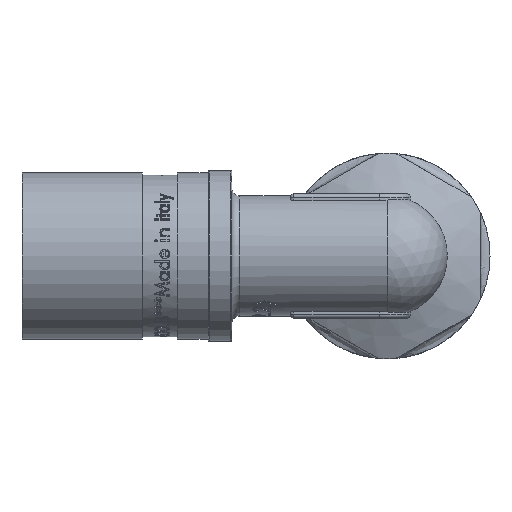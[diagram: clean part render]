
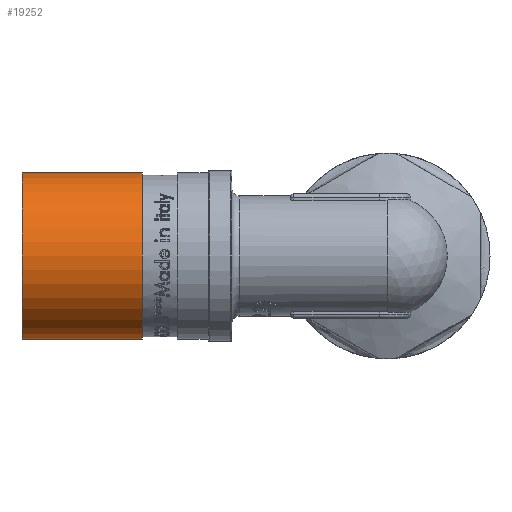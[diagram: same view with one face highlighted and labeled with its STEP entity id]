
A CAD part, front view. The second image highlights one B-rep face of the part: STEP entity #19252.
In plain terms, the highlighted cylindrical face has radius 10.7 mm (diameter 21.4 mm), a full revolution.
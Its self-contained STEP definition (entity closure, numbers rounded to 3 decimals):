
#1185=CIRCLE('',#20217,10.7);
#1186=CIRCLE('',#20218,10.7);
#1189=CIRCLE('',#20222,10.7);
#1190=CIRCLE('',#20223,10.7);
#2170=FACE_OUTER_BOUND('',#3300,.T.);
#3300=EDGE_LOOP('',(#16006,#16007,#16008,#16009,#16010,#16011));
#5498=LINE('',#38677,#6984);
#6984=VECTOR('',#22591,10.7);
#8853=VERTEX_POINT('',#38664);
#8854=VERTEX_POINT('',#38665);
#8857=VERTEX_POINT('',#38673);
#8858=VERTEX_POINT('',#38674);
#11383=EDGE_CURVE('',#8853,#8854,#1185,.T.);
#11384=EDGE_CURVE('',#8854,#8853,#1186,.T.);
#11387=EDGE_CURVE('',#8857,#8858,#1189,.T.);
#11388=EDGE_CURVE('',#8858,#8857,#1190,.T.);
#11389=EDGE_CURVE('',#8858,#8854,#5498,.T.);
#16006=ORIENTED_EDGE('',*,*,#11387,.F.);
#16007=ORIENTED_EDGE('',*,*,#11388,.F.);
#16008=ORIENTED_EDGE('',*,*,#11389,.T.);
#16009=ORIENTED_EDGE('',*,*,#11384,.T.);
#16010=ORIENTED_EDGE('',*,*,#11383,.T.);
#16011=ORIENTED_EDGE('',*,*,#11389,.F.);
#18572=CYLINDRICAL_SURFACE('',#20221,10.7);
#19252=ADVANCED_FACE('',(#2170),#18572,.T.);
#20217=AXIS2_PLACEMENT_3D('',#38666,#22577,#22578);
#20218=AXIS2_PLACEMENT_3D('',#38667,#22579,#22580);
#20221=AXIS2_PLACEMENT_3D('',#38672,#22585,#22586);
#20222=AXIS2_PLACEMENT_3D('',#38675,#22587,#22588);
#20223=AXIS2_PLACEMENT_3D('',#38676,#22589,#22590);
#22577=DIRECTION('center_axis',(1.,0.,0.));
#22578=DIRECTION('ref_axis',(0.,0.,-1.));
#22579=DIRECTION('center_axis',(1.,0.,0.));
#22580=DIRECTION('ref_axis',(0.,0.,-1.));
#22585=DIRECTION('center_axis',(1.,0.,0.));
#22586=DIRECTION('ref_axis',(0.,1.,0.));
#22587=DIRECTION('center_axis',(1.,0.,0.));
#22588=DIRECTION('ref_axis',(0.,0.,-1.));
#22589=DIRECTION('center_axis',(1.,0.,0.));
#22590=DIRECTION('ref_axis',(0.,0.,-1.));
#22591=DIRECTION('',(-1.,0.,0.));
#38664=CARTESIAN_POINT('',(-47.012,10.7,0.));
#38665=CARTESIAN_POINT('',(-47.012,-10.7,0.));
#38666=CARTESIAN_POINT('Origin',(-47.012,0.,
0.));
#38667=CARTESIAN_POINT('Origin',(-47.012,0.,
0.));
#38672=CARTESIAN_POINT('Origin',(-39.262,0.,
0.));
#38673=CARTESIAN_POINT('',(-31.512,10.7,0.));
#38674=CARTESIAN_POINT('',(-31.512,-10.7,0.));
#38675=CARTESIAN_POINT('Origin',(-31.512,0.,
0.));
#38676=CARTESIAN_POINT('Origin',(-31.512,0.,
0.));
#38677=CARTESIAN_POINT('',(-39.262,-10.7,0.));
